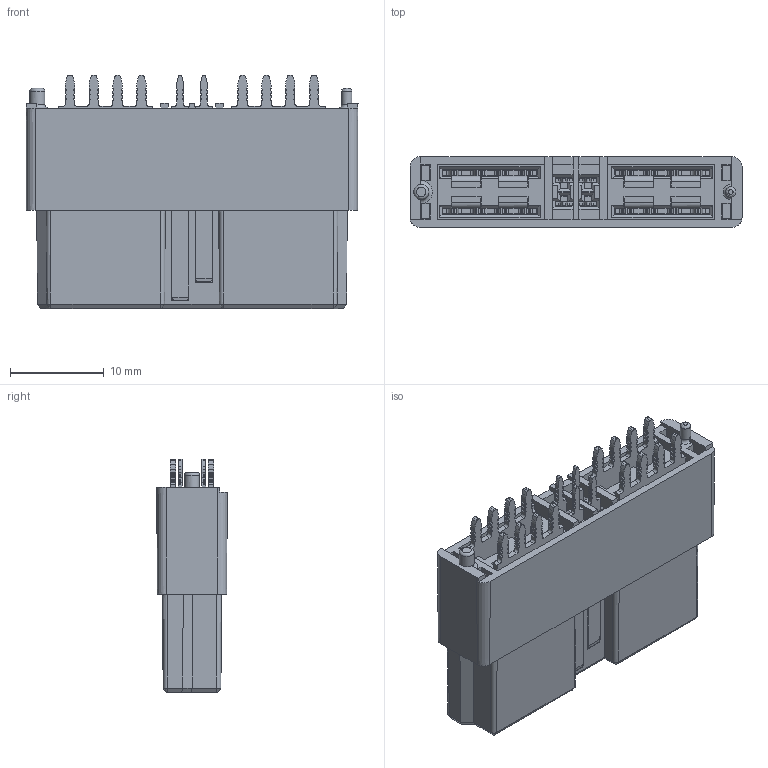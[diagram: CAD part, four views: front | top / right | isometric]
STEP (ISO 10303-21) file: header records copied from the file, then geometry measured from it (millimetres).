
FILE_DESCRIPTION(/* description */ (''),/* implementation_level */ '2;1');
FILE_NAME(/* name */ 'PDC5310C0001 石头档.stp',/* time_stamp */ '2025-02-17T15:46:13+08:00',/* author */ (''),/* organization */ (''),/* preprocessor_version */ 'ST-DEVELOPER v16.7',/* originating_system */ 'SIEMENS PLM Software NX 1946',/* authorisation */ '');
FILE_SCHEMA (('AUTOMOTIVE_DESIGN { 1 0 10303 214 3 1 1 1 }'));
Length unit declared in the file: millimetre
Products named in the file (1): PDC53+54(4PSP改款）
Bounding box: 35.4 x 7.5 x 24.91 mm (x, y, z)
Volume: 3441.6 mm3; surface area: 6751.5 mm2
Topology: 1 solids, 1 shells, 1495 faces, 4350 edges, 2869 vertices
Faces by surface type: plane 718, cylinder 647, extrusion 98, cone 20, bspline 9, torus 3
Full cylindrical faces by diameter (mm): 1.1 x1, 1.6 x1
Entity records: 57596 total; most frequent: CARTESIAN_POINT 10927, ORIENTED_EDGE 8686, DIRECTION 8266, EDGE_CURVE 4343, VERTEX_POINT 2866, VECTOR 2796, AXIS2_PLACEMENT_3D 2735, LINE 2698
